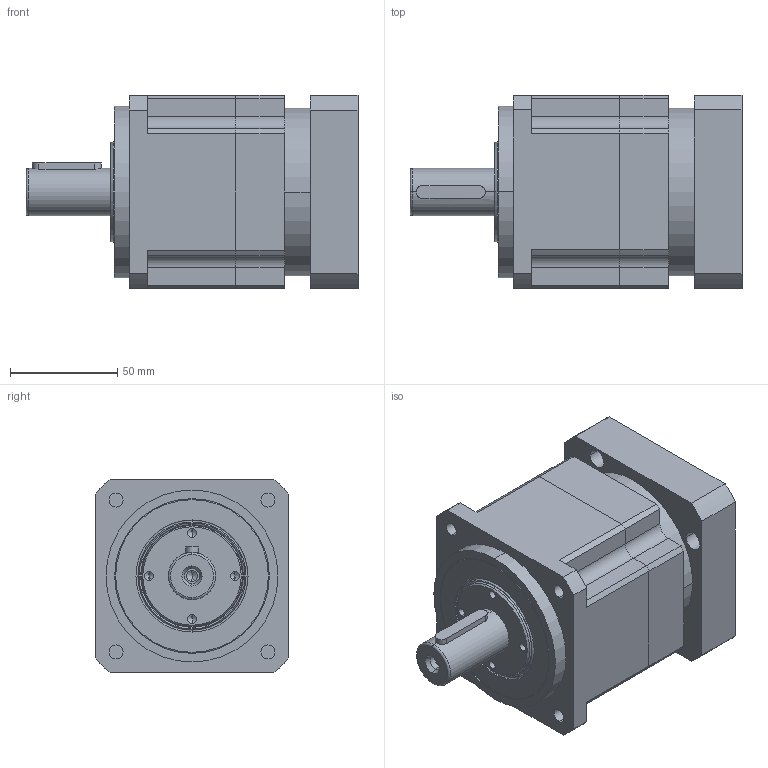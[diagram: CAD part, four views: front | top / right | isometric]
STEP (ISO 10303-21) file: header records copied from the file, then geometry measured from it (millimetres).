
FILE_DESCRIPTION (( 'STEP AP214' ), '1' );
FILE_NAME ('PX90-L1.STEP', '2019-03-26T05:42:25', ( '微软用户' ), ( '微软中国' ), 'SwSTEP 2.0', 'SolidWorks 2014', '' );
FILE_SCHEMA (( 'AUTOMOTIVE_DESIGN' ));
Length unit declared in the file: millimetre
Products named in the file (6): PX90-L1; 奻裔啣; PX90-帣釱; 油封範本 TC 72x50x8_TC-34.9-55-7; 内六角圆柱头螺钉M6×16; A倰す瑩 6x6x32
Assembly tree (5 placements, depth 2):
  PX90-L1
    奻裔啣
    PX90-帣釱
    油封範本 TC 72x50x8_TC-34.9-55-7
    内六角圆柱头螺钉M6×16
    A倰す瑩 6x6x32
Bounding box: 154.5 x 90 x 90 mm (x, y, z)
Volume: 713246 mm3; surface area: 111779 mm2
Topology: 5 solids, 5 shells, 294 faces, 722 edges, 453 vertices
Faces by surface type: cylinder 146, plane 92, cone 36, torus 20
Entity records: 9314 total; most frequent: CARTESIAN_POINT 1709, DIRECTION 1651, ORIENTED_EDGE 1404, EDGE_CURVE 702, AXIS2_PLACEMENT_3D 656, VERTEX_POINT 453, EDGE_LOOP 361, CIRCLE 354
